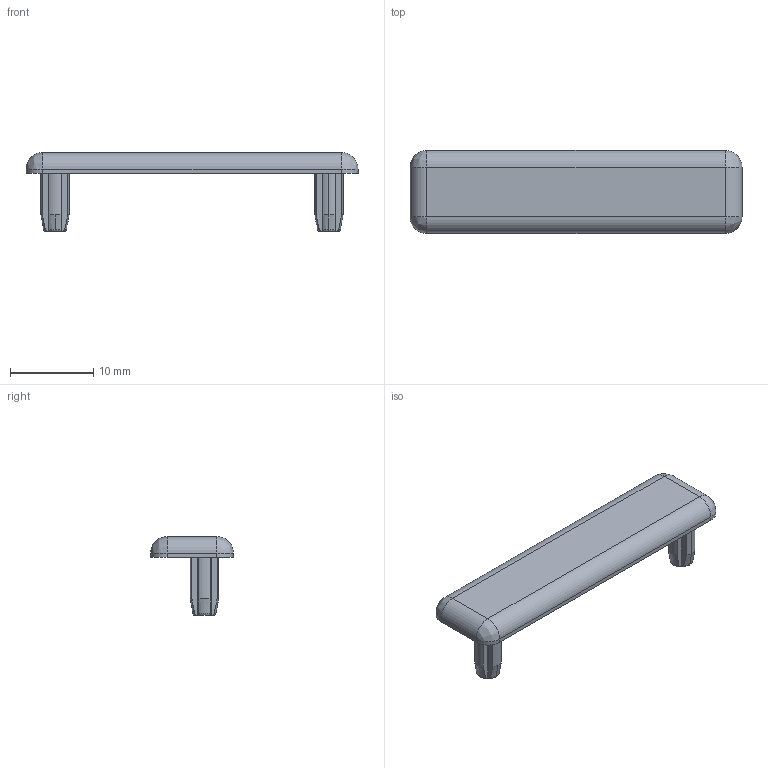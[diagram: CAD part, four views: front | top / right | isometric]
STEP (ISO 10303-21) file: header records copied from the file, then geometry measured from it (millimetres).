
FILE_DESCRIPTION (( 'STEP AP203' ), '1' );
FILE_NAME ('0105AK4020.STEP', '2024-03-06T13:22:10', ( 'Windows-Benutzer' ), ( '' ), 'SwSTEP 2.0', 'SolidWorks 2023', '' );
FILE_SCHEMA (( 'CONFIG_CONTROL_DESIGN' ));
Length unit declared in the file: millimetre
Products named in the file (1): 0105AK4020
Bounding box: 40 x 10 x 9.5 mm (x, y, z)
Volume: 902.3 mm3; surface area: 1168 mm2
Topology: 1 solids, 1 shells, 81 faces, 218 edges, 138 vertices
Faces by surface type: plane 37, cylinder 20, bspline 14, cone 10
Entity records: 2785 total; most frequent: CARTESIAN_POINT 802, ORIENTED_EDGE 428, DIRECTION 362, EDGE_CURVE 214, VERTEX_POINT 138, AXIS2_PLACEMENT_3D 122, LINE 118, VECTOR 118
